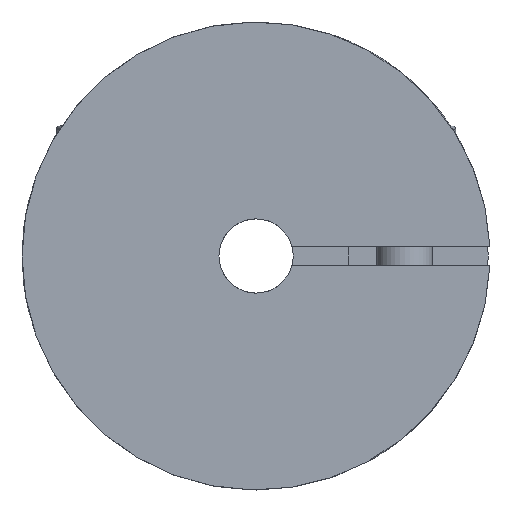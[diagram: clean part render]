
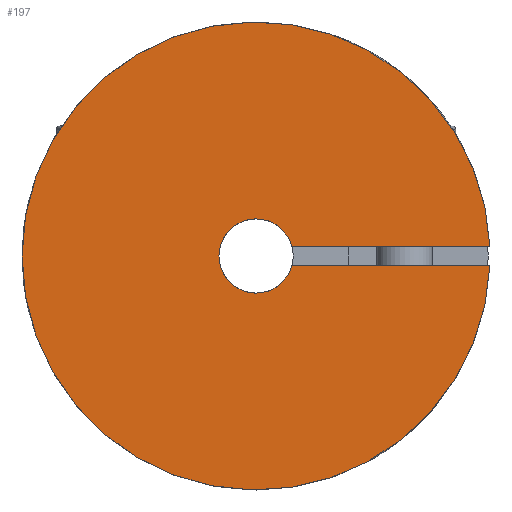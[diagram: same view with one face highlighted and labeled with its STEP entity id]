
A CAD part, left-side view. The second image highlights one B-rep face of the part: STEP entity #197.
In plain terms, the highlighted planar face has unit normal (-1, 0, 0).
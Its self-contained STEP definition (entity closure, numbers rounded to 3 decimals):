
#197=ADVANCED_FACE('NONE',(#483),#484,.F.);
#483=FACE_OUTER_BOUND('',#875,.T.);
#484=PLANE('',#876);
#875=EDGE_LOOP('',(#1351,#1352,#1353,#1354,#1355,#1356));
#876=AXIS2_PLACEMENT_3D('',#1357,#1358,#1359);
#1351=ORIENTED_EDGE('',*,*,#2288,.F.);
#1352=ORIENTED_EDGE('',*,*,#2337,.F.);
#1353=ORIENTED_EDGE('',*,*,#2275,.T.);
#1354=ORIENTED_EDGE('',*,*,#2357,.T.);
#1355=ORIENTED_EDGE('',*,*,#2341,.F.);
#1356=ORIENTED_EDGE('',*,*,#2323,.F.);
#1357=CARTESIAN_POINT('',(0.,0.,2.));
#1358=DIRECTION('',(1.0,0.,0.0));
#1359=DIRECTION('',(0.,0.,-1.0));
#2275=EDGE_CURVE('NONE',#2702,#2699,#2703,.T.);
#2288=EDGE_CURVE('NONE',#2725,#2721,#2727,.T.);
#2323=EDGE_CURVE('NONE',#2721,#2786,#2787,.T.);
#2337=EDGE_CURVE('NONE',#2702,#2725,#2806,.T.);
#2341=EDGE_CURVE('NONE',#2786,#2811,#2812,.T.);
#2357=EDGE_CURVE('NONE',#2699,#2811,#2833,.T.);
#2699=VERTEX_POINT('',#3386);
#2702=VERTEX_POINT('NONE',#3390);
#2703=CIRCLE('',#3391,12.6);
#2721=VERTEX_POINT('',#3413);
#2725=VERTEX_POINT('NONE',#3418);
#2727=CIRCLE('',#3421,2.);
#2786=VERTEX_POINT('NONE',#3513);
#2787=CIRCLE('',#3514,2.);
#2806=LINE('',#3539,#3540);
#2811=VERTEX_POINT('NONE',#3546);
#2812=LINE('',#3547,#3548);
#2833=CIRCLE('',#3594,12.6);
#3386=CARTESIAN_POINT('',(0.,12.6,0.));
#3390=CARTESIAN_POINT('',(0.,-12.59,0.5));
#3391=AXIS2_PLACEMENT_3D('',#4335,#4336,#4337);
#3413=CARTESIAN_POINT('',(0.,2.,0.));
#3418=CARTESIAN_POINT('',(0.,-1.936,0.5));
#3421=AXIS2_PLACEMENT_3D('',#4359,#4360,#4361);
#3513=CARTESIAN_POINT('',(0.,-1.936,-0.5));
#3514=AXIS2_PLACEMENT_3D('',#4413,#4414,#4415);
#3539=CARTESIAN_POINT('',(0.,-1.287,0.5));
#3540=VECTOR('',#4434,1000.0);
#3546=CARTESIAN_POINT('',(0.,-12.59,-0.5));
#3547=CARTESIAN_POINT('',(0.,-1.287,-0.5));
#3548=VECTOR('',#4439,1000.0);
#3594=AXIS2_PLACEMENT_3D('',#4465,#4466,#4467);
#4335=CARTESIAN_POINT('',(0.0,0.0,0.0));
#4336=DIRECTION('',(-1.0,0.,0.0));
#4337=DIRECTION('',(0.,-1.0,0.));
#4359=CARTESIAN_POINT('',(0.0,0.0,0.0));
#4360=DIRECTION('',(-1.0,0.,0.0));
#4361=DIRECTION('',(0.,-1.0,0.));
#4413=CARTESIAN_POINT('',(0.0,0.0,0.0));
#4414=DIRECTION('',(-1.0,0.,0.0));
#4415=DIRECTION('',(0.,-1.0,0.));
#4434=DIRECTION('',(0.,1.0,0.));
#4439=DIRECTION('',(0.,-1.0,0.));
#4465=CARTESIAN_POINT('',(0.0,0.0,0.0));
#4466=DIRECTION('',(-1.0,0.,0.0));
#4467=DIRECTION('',(0.,-1.0,0.));
